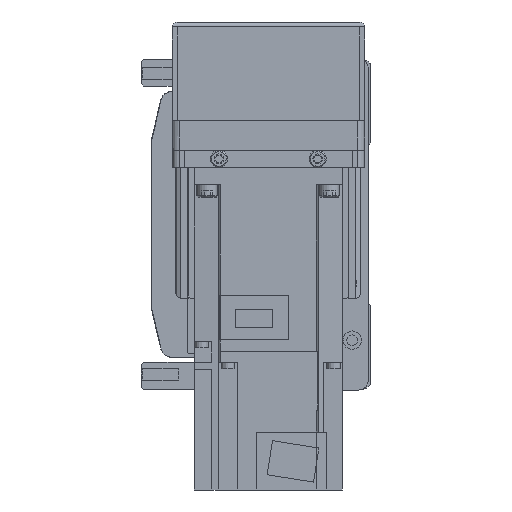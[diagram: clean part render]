
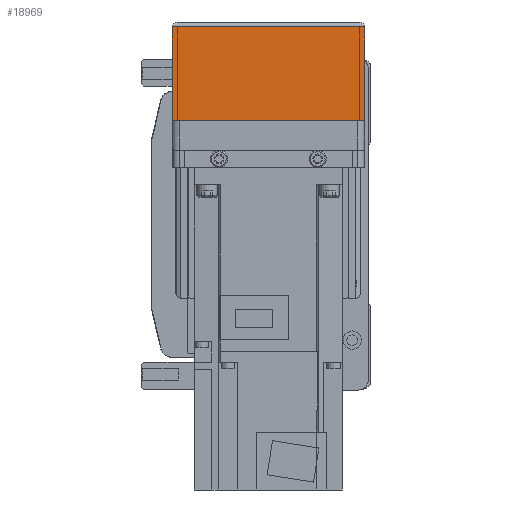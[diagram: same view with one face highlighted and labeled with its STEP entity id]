
A CAD part, left-side view. The second image highlights one B-rep face of the part: STEP entity #18969.
In plain terms, the highlighted planar face has unit normal (-1, 0, 0).
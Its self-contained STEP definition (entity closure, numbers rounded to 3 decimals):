
#2810=ORIENTED_EDGE('',*,*,#7623,.F.);
#2811=ORIENTED_EDGE('',*,*,#7624,.F.);
#2812=ORIENTED_EDGE('',*,*,#7625,.T.);
#2813=ORIENTED_EDGE('',*,*,#7626,.F.);
#7623=EDGE_CURVE('',#10128,#10119,#12089,.T.);
#7624=EDGE_CURVE('',#10145,#10128,#12090,.T.);
#7625=EDGE_CURVE('',#10145,#10146,#12091,.T.);
#7626=EDGE_CURVE('',#10119,#10146,#12092,.T.);
#10119=VERTEX_POINT('',#29090);
#10128=VERTEX_POINT('',#29108);
#10145=VERTEX_POINT('',#29156);
#10146=VERTEX_POINT('',#29158);
#12089=LINE('',#29154,#13779);
#12090=LINE('',#29155,#13780);
#12091=LINE('',#29157,#13781);
#12092=LINE('',#29159,#13782);
#13779=VECTOR('',#23329,1000.);
#13780=VECTOR('',#23330,1000.);
#13781=VECTOR('',#23331,1000.);
#13782=VECTOR('',#23332,1000.);
#15301=EDGE_LOOP('',(#2810,#2811,#2812,#2813));
#16831=FACE_BOUND('',#15301,.T.);
#18202=PLANE('',#20323);
#18969=ADVANCED_FACE('',(#16831),#18202,.F.);
#20323=AXIS2_PLACEMENT_3D('',#29153,#23327,#23328);
#23327=DIRECTION('',(1.,0.,0.));
#23328=DIRECTION('',(0.,0.,-1.));
#23329=DIRECTION('',(0.,-1.,0.));
#23330=DIRECTION('',(0.,0.,1.));
#23331=DIRECTION('',(0.,-1.,0.));
#23332=DIRECTION('',(0.,0.,-1.));
#29090=CARTESIAN_POINT('',(-158.,-39.,-12.1));
#29108=CARTESIAN_POINT('',(-158.,39.,-12.1));
#29153=CARTESIAN_POINT('',(-158.,36.,7.));
#29154=CARTESIAN_POINT('',(-158.,50.,-12.1));
#29155=CARTESIAN_POINT('',(-158.,39.,-50.));
#29156=CARTESIAN_POINT('',(-158.,39.,-50.));
#29157=CARTESIAN_POINT('',(-158.,40.,-50.));
#29158=CARTESIAN_POINT('',(-158.,-39.,-50.));
#29159=CARTESIAN_POINT('',(-158.,-39.,-12.1));
